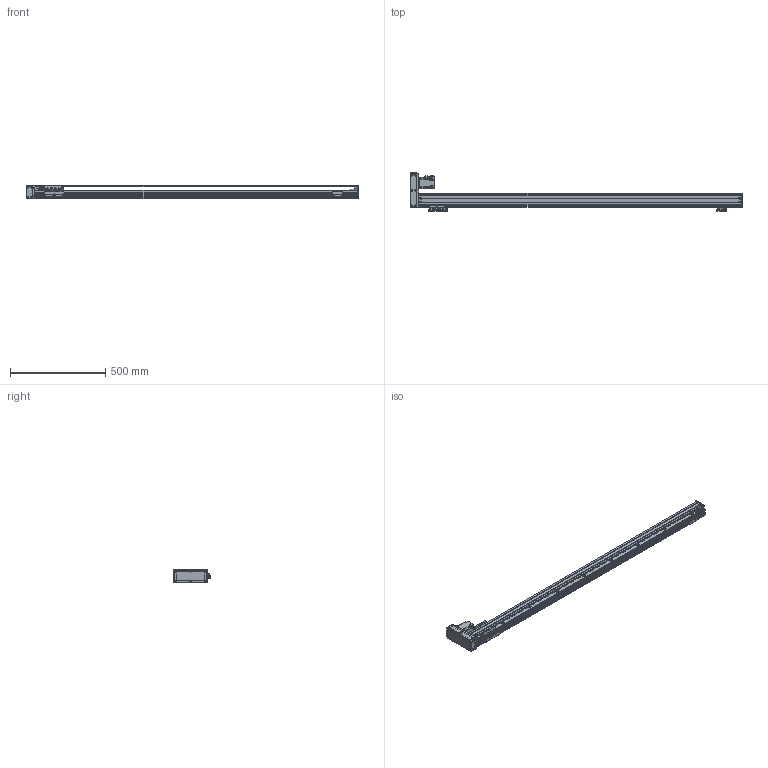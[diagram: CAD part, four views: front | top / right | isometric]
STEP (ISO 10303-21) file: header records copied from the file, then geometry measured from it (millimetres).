
FILE_DESCRIPTION(/* description */ (''),/* implementation_level */ '2;1');
FILE_NAME(/* name */ '\\192.168.0.160\disk1\HAN SHIN Master\B-설계부문\C-표준\B-2024년\BC02-표준도면\+로봇 개선표준도면\홈페이지 표준 도면\홈페이지 최종 작업 폴더\3D\HR\HR75\HR75병렬\좌병렬\HR75-L20-N1B-1500-R10.stp',/* time_stamp */ '2025-01-18T15:36:30+09:00',/* author */ ('user'),/* organization */ (''),/* preprocessor_version */ 'ST-DEVELOPER v18.1',/* originating_system */ 'Autodesk Inventor 2022',/* authorisation */ '');
FILE_SCHEMA (('CONFIG_CONTROL_DESIGN'));
Products named in the file (23): HG75-L20-N1B-0500-R10 - 간소화; BASE; HR75 FRONT BLOCK; HR75 REAR COVER-TENTION; HR75 TENSION REAR BLOCK; HG3UPCOV001; H 15F_BLOCK; HR65,75 SENSOR DOG; HG90STOPPER - 20L; HG90STOPPER - 27L; MOTOR PLATE-200W(MITSUBISHI); HC75-LR-MOTOR PLATE(200W)-사출; 화살표; HR75-LR-BELT COVER(200W); HR75-BELT COVER-COVER2; HR75-BELT COVER-COVER; hg-kr23_; HR65-BELT COVER-COVER3; M-5HL-4; HR75 W TABLE; LMKE1520 NUT; SENSOR BRK(EE-SX674A); EE_SX674A
Assembly tree (28 placements, depth 2):
  HG75-L20-N1B-0500-R10 - 간소화
    BASE
    HR75 FRONT BLOCK
    HR75 REAR COVER-TENTION
    SENSOR BRK(EE-SX674A)  x3
    EE_SX674A  x3
    HR75 TENSION REAR BLOCK
    HG3UPCOV001
    H 15F_BLOCK
    HR65,75 SENSOR DOG
    HG90STOPPER - 20L
    HG90STOPPER - 27L
    MOTOR PLATE-200W(MITSUBISHI)
    HC75-LR-MOTOR PLATE(200W)-사출
    화살표  x2
    HR75-LR-BELT COVER(200W)
    HR75-BELT COVER-COVER2
    HR75-BELT COVER-COVER
    HR65-BELT COVER-COVER3  x2
    hg-kr23_
    M-5HL-4
    HR75 W TABLE
    LMKE1520 NUT
Bounding box: 1739 x 199 x 73 mm (x, y, z)
Volume: 2479257.2 mm3; surface area: 1153589.7 mm2
Topology: 28 solids, 28 shells, 2940 faces, 8087 edges, 5345 vertices
Faces by surface type: plane 2187, cylinder 638, cone 107, sphere 8
Full cylindrical faces by diameter (mm): 1.8 x1, 2 x4, 2.013 x2, 2.459 x16, 2.5 x2, 3 x8, 3.242 x46, 3.4 x20, 3.5 x6, 4.134 x52, 4.5 x22, 4.917 x5, 5 x31, 5.5 x36, 5.6 x8, 5.8 x4, 5.9 x8, 6 x4, 6.5 x1, 7 x1, 8 x1, 9.5 x32, 14 x1, 15 x3, 17 x1, 20 x1, 25 x2, 28 x1, 32 x2, 33.7 x1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
Entity records: 88869 total; most frequent: CARTESIAN_POINT 16028, ORIENTED_EDGE 15058, DIRECTION 14340, EDGE_CURVE 7529, LINE 6186, VECTOR 6186, VERTEX_POINT 5013, AXIS2_PLACEMENT_3D 4077
